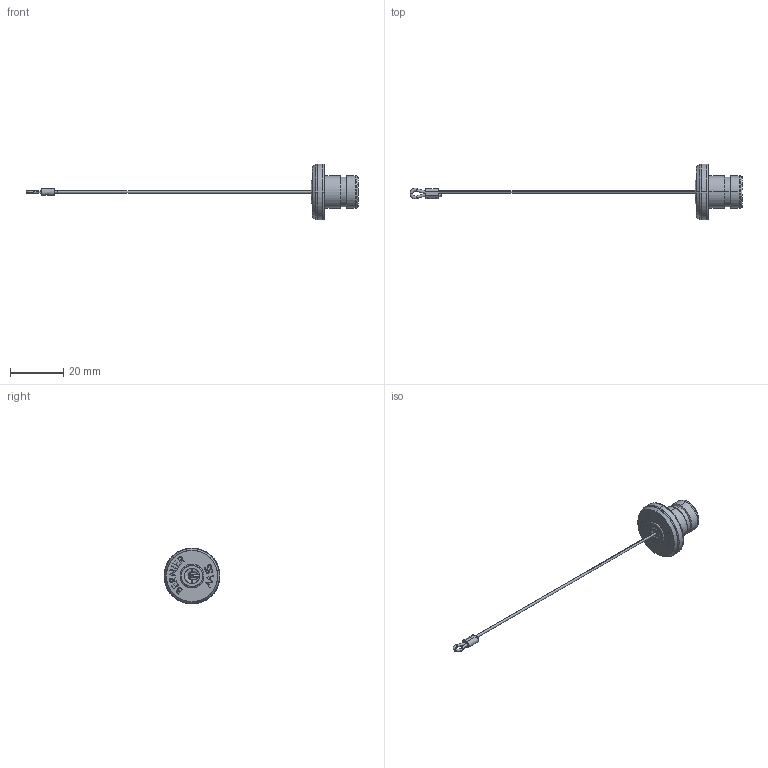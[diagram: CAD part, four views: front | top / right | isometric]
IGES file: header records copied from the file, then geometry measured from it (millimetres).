
Start section: SolidWorks IGES file using analytic representation for surfaces
Global section: file name: C:\Users\dmt\Desktop\CMABA06MC.IGS; native system: SolidWorks 2016; preprocessor: SolidWorks 2016; author: dmt; date: 170307.165258; units: millimetre
Bounding box: 124.6 x 21 x 21 mm (x, y, z)
Surface area: 2083.3 mm2 (no closed solid volume)
Topology: 0 solids, 0 shells, 247 faces, 1977 edges, 1977 vertices
Faces by surface type: bspline 216, revolution 31
